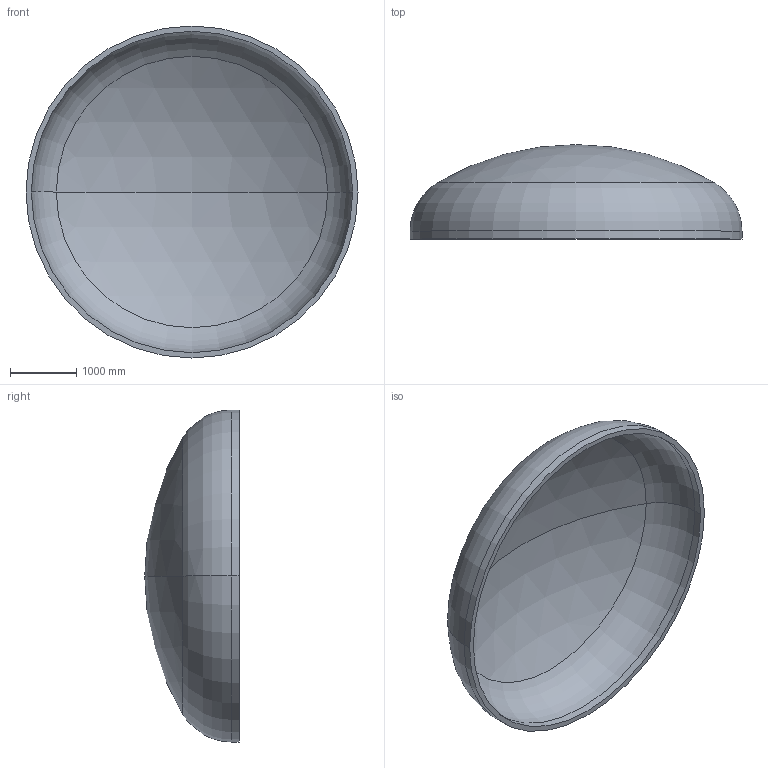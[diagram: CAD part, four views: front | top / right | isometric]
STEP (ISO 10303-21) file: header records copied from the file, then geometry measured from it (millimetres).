
FILE_DESCRIPTION (( 'STEP AP203' ), '1' );
FILE_NAME ('DIN 28013 Korbbogenform_-_Boden DIN 28013 - 5000 x 120 - I - s=80.step', '2016-07-02T00:47:34', ( '' ), ( '' ), 'SwSTEP 2.0', 'SolidWorks 2013', '' );
FILE_SCHEMA (( 'CONFIG_CONTROL_DESIGN' ));
Length unit declared in the file: millimetre
Products named in the file (1): DIN 28013 Korbbogenform_-_Boden DIN 28013 - 5000 x 120 - I - s=80
Bounding box: 5000 x 1423.24 x 5000 mm (x, y, z)
Volume: 2278452615.6 mm3; surface area: 58211229.6 mm2
Topology: 1 solids, 1 shells, 13 faces, 24 edges, 14 vertices
Faces by surface type: torus 4, cylinder 4, sphere 4, plane 1
Entity records: 407 total; most frequent: DIRECTION 72, CARTESIAN_POINT 52, ORIENTED_EDGE 48, AXIS2_PLACEMENT_3D 34, EDGE_CURVE 24, CIRCLE 20, EDGE_LOOP 14, VERTEX_POINT 14
